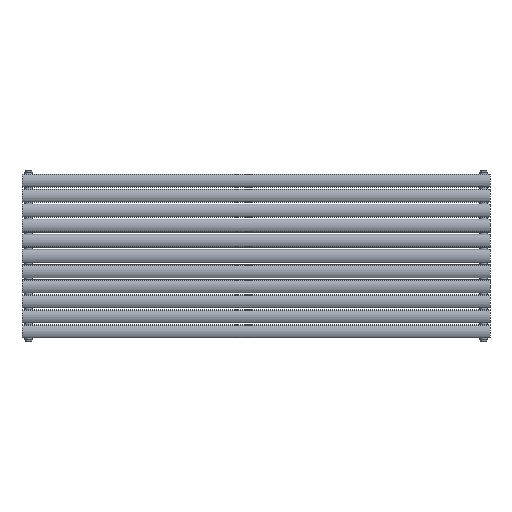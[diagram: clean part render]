
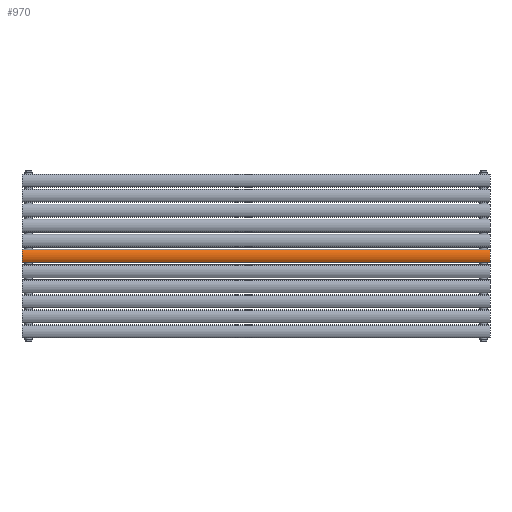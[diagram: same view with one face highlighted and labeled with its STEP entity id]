
A CAD part, top view. The second image highlights one B-rep face of the part: STEP entity #970.
In plain terms, the highlighted cylindrical face has radius 39.5 mm (diameter 79 mm), a partial arc.
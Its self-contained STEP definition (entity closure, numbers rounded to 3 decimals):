
#143=LINE('',#2453,#175);
#144=LINE('',#2457,#176);
#175=VECTOR('',#1240,10.);
#176=VECTOR('',#1243,10.);
#253=CIRCLE('',#1075,39.5);
#254=CIRCLE('',#1076,39.5);
#349=FACE_OUTER_BOUND('',#438,.T.);
#438=EDGE_LOOP('',(#811,#812,#813,#814));
#560=VERTEX_POINT('',#2451);
#561=VERTEX_POINT('',#2452);
#562=VERTEX_POINT('',#2454);
#563=VERTEX_POINT('',#2456);
#652=EDGE_CURVE('',#560,#561,#143,.T.);
#653=EDGE_CURVE('',#562,#560,#253,.T.);
#654=EDGE_CURVE('',#563,#562,#144,.T.);
#655=EDGE_CURVE('',#561,#563,#254,.T.);
#811=ORIENTED_EDGE('',*,*,#652,.F.);
#812=ORIENTED_EDGE('',*,*,#653,.F.);
#813=ORIENTED_EDGE('',*,*,#654,.F.);
#814=ORIENTED_EDGE('',*,*,#655,.F.);
#940=CYLINDRICAL_SURFACE('',#1074,39.5);
#970=ADVANCED_FACE('',(#349),#940,.T.);
#1074=AXIS2_PLACEMENT_3D('',#2450,#1238,#1239);
#1075=AXIS2_PLACEMENT_3D('',#2455,#1241,#1242);
#1076=AXIS2_PLACEMENT_3D('',#2458,#1244,#1245);
#1238=DIRECTION('center_axis',(0.,0.,1.));
#1239=DIRECTION('ref_axis',(-0.552,-0.834,0.));
#1240=DIRECTION('',(0.,0.,-1.));
#1241=DIRECTION('center_axis',(0.,0.,1.));
#1242=DIRECTION('ref_axis',(-0.552,-0.834,0.));
#1243=DIRECTION('',(0.,0.,1.));
#1244=DIRECTION('center_axis',(0.,0.,-1.));
#1245=DIRECTION('ref_axis',(-0.552,-0.834,0.));
#2450=CARTESIAN_POINT('Origin',(0.,14.5,0.));
#2451=CARTESIAN_POINT('',(21.816,-18.429,900.));
#2452=CARTESIAN_POINT('',(21.816,-18.429,-900.));
#2453=CARTESIAN_POINT('',(21.816,-18.429,0.));
#2454=CARTESIAN_POINT('',(-21.816,-18.429,900.));
#2455=CARTESIAN_POINT('Origin',(0.,14.5,900.));
#2456=CARTESIAN_POINT('',(-21.816,-18.429,-900.));
#2457=CARTESIAN_POINT('',(-21.816,-18.429,0.));
#2458=CARTESIAN_POINT('Origin',(0.,14.5,-900.));
